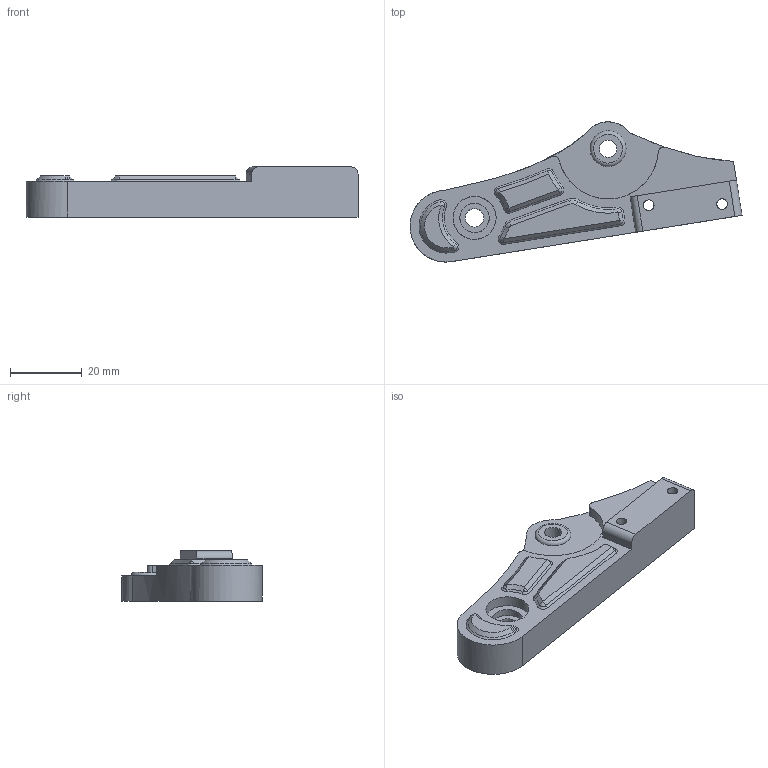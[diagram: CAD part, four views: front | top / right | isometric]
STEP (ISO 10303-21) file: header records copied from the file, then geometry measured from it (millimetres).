
FILE_DESCRIPTION(/* description */ (''),/* implementation_level */ '2;1');
FILE_NAME(/* name */ 'Lever Arm.stp',/* time_stamp */ '2025-08-27T00:55:54+09:00',/* author */ (''),/* organization */ (''),/* preprocessor_version */ 'ST-DEVELOPER v11',/* originating_system */ 'SIEMENS PLM Software NX 7.5',/* authorisation */ '');
FILE_SCHEMA (('CONFIG_CONTROL_DESIGN'));
Length unit declared in the file: millimetre
Products named in the file (1): gyun8D5Cllzb
Bounding box: 92.55 x 39.08 x 14 mm (x, y, z)
Volume: 20195.7 mm3; surface area: 7245.8 mm2
Topology: 1 solids, 1 shells, 80 faces, 209 edges, 128 vertices
Faces by surface type: plane 25, cone 22, bspline 18, cylinder 14, torus 1
Full cylindrical faces by diameter (mm): 3 x2, 4.8 x1, 5.1 x1, 8.2 x1, 12 x1
Entity records: 2811 total; most frequent: CARTESIAN_POINT 1043, ORIENTED_EDGE 386, DIRECTION 261, EDGE_CURVE 193, VERTEX_POINT 128, AXIS2_PLACEMENT_3D 106, B_SPLINE_CURVE_WITH_KNOTS 102, EDGE_LOOP 101
